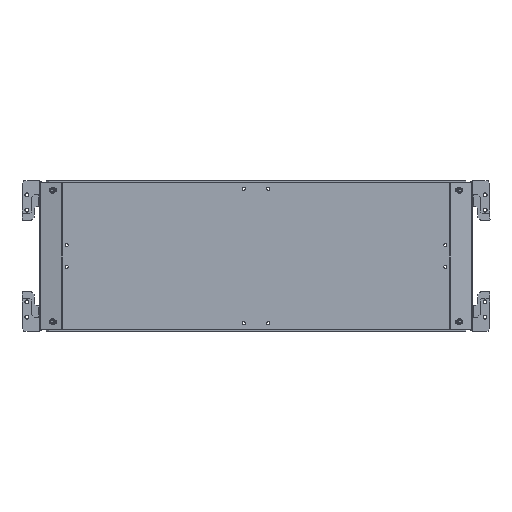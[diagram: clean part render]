
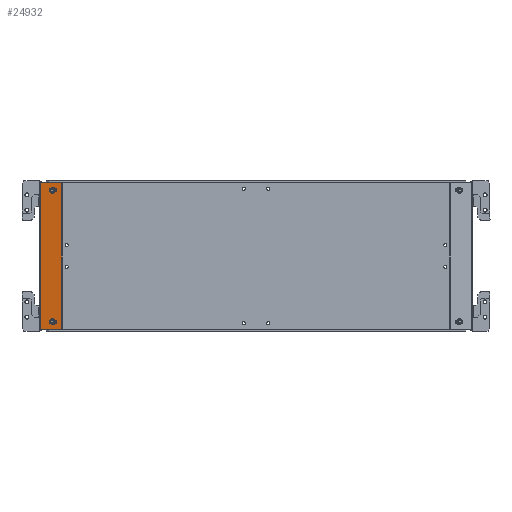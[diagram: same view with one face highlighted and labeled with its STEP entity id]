
A CAD part, left-side view. The second image highlights one B-rep face of the part: STEP entity #24932.
In plain terms, the highlighted planar face has unit normal (-0.985, 0.174, 0).
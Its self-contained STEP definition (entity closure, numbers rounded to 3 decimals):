
#133 = EDGE_CURVE ( 'NONE', #25483, #2798, #22973, .T. ) ;
#482 = ORIENTED_EDGE ( 'NONE', *, *, #19916, .F. ) ;
#875 = CARTESIAN_POINT ( 'NONE',  ( 1099.568, 431.306, -87.754 ) ) ;
#882 = DIRECTION ( 'NONE',  ( -0.15, -0.853, 0.5 ) ) ;
#974 = EDGE_CURVE ( 'NONE', #3538, #25483, #24472, .T. ) ;
#1029 = ORIENTED_EDGE ( 'NONE', *, *, #133, .T. ) ;
#1152 = EDGE_CURVE ( 'NONE', #8448, #6318, #25730, .T. ) ;
#1171 = VECTOR ( 'NONE', #12649, 1000. ) ;
#1431 = EDGE_CURVE ( 'NONE', #16072, #26197, #1823, .T. ) ;
#1483 = VECTOR ( 'NONE', #23919, 1000. ) ;
#1628 = CARTESIAN_POINT ( 'NONE',  ( 1098.778, 426.825, -79.873 ) ) ;
#1823 = LINE ( 'NONE', #24078, #1483 ) ;
#2203 = EDGE_CURVE ( 'NONE', #12276, #9836, #29211, .T. ) ;
#2447 = VECTOR ( 'NONE', #28014, 1000. ) ;
#2693 = DIRECTION ( 'NONE',  ( 0.15, 0.853, -0.5 ) ) ;
#2798 = VERTEX_POINT ( 'NONE', #16400 ) ;
#2863 = VERTEX_POINT ( 'NONE', #5991 ) ;
#3266 = ORIENTED_EDGE ( 'NONE', *, *, #1152, .T. ) ;
#3538 = VERTEX_POINT ( 'NONE', #11581 ) ;
#3877 = CARTESIAN_POINT ( 'NONE',  ( 1100.358, 435.786, -79.873 ) ) ;
#3898 = DIRECTION ( 'NONE',  ( 0.15, 0.853, 0.5 ) ) ;
#3906 = ORIENTED_EDGE ( 'NONE', *, *, #26634, .T. ) ;
#3957 = LINE ( 'NONE', #16151, #18466 ) ;
#4536 = ORIENTED_EDGE ( 'NONE', *, *, #1431, .T. ) ;
#4725 = VECTOR ( 'NONE', #14688, 1000. ) ;
#4895 = VERTEX_POINT ( 'NONE', #12906 ) ;
#5038 = CARTESIAN_POINT ( 'NONE',  ( 1099.568, 431.306, -77.246 ) ) ;
#5292 = EDGE_CURVE ( 'NONE', #2863, #8448, #7684, .T. ) ;
#5568 = DIRECTION ( 'NONE',  ( 0., 0., 1. ) ) ;
#5841 = FACE_BOUND ( 'NONE', #30952, .T. ) ;
#5991 = CARTESIAN_POINT ( 'NONE',  ( 1100.358, 435.786, 129.873 ) ) ;
#6293 = EDGE_CURVE ( 'NONE', #2798, #6918, #17303, .T. ) ;
#6318 = VERTEX_POINT ( 'NONE', #24110 ) ;
#6414 = CARTESIAN_POINT ( 'NONE',  ( 1098.778, 426.825, 25. ) ) ;
#6730 = DIRECTION ( 'NONE',  ( 0., 0., 1. ) ) ;
#6918 = VERTEX_POINT ( 'NONE', #3877 ) ;
#7176 = VECTOR ( 'NONE', #2693, 1000. ) ;
#7216 = DIRECTION ( 'NONE',  ( -0.15, -0.853, -0.5 ) ) ;
#7232 = CARTESIAN_POINT ( 'NONE',  ( 1099.568, 431.306, 127.246 ) ) ;
#7368 = ORIENTED_EDGE ( 'NONE', *, *, #18036, .T. ) ;
#7684 = LINE ( 'NONE', #22781, #18169 ) ;
#7806 = DIRECTION ( 'NONE',  ( -0.174, -0.985, 0. ) ) ;
#7953 = DIRECTION ( 'NONE',  ( -0.985, 0.174, 0. ) ) ;
#8448 = VERTEX_POINT ( 'NONE', #23753 ) ;
#9013 = VECTOR ( 'NONE', #23139, 1000. ) ;
#9229 = DIRECTION ( 'NONE',  ( -0.15, -0.853, -0.5 ) ) ;
#9590 = AXIS2_PLACEMENT_3D ( 'NONE', #25644, #7953, #7806 ) ;
#9836 = VERTEX_POINT ( 'NONE', #1628 ) ;
#10780 = EDGE_CURVE ( 'NONE', #4895, #26197, #25666, .T. ) ;
#10944 = LINE ( 'NONE', #30775, #9013 ) ;
#11581 = CARTESIAN_POINT ( 'NONE',  ( 1098.778, 426.825, -85.127 ) ) ;
#11613 = VERTEX_POINT ( 'NONE', #7232 ) ;
#12276 = VERTEX_POINT ( 'NONE', #5038 ) ;
#12364 = ORIENTED_EDGE ( 'NONE', *, *, #32001, .T. ) ;
#12551 = CARTESIAN_POINT ( 'NONE',  ( 1100.358, 435.786, -79.873 ) ) ;
#12590 = ORIENTED_EDGE ( 'NONE', *, *, #6293, .T. ) ;
#12649 = DIRECTION ( 'NONE',  ( -0.174, -0.985, 0. ) ) ;
#12836 = VECTOR ( 'NONE', #3898, 1000. ) ;
#12906 = CARTESIAN_POINT ( 'NONE',  ( 1097.227, 418.028, -95. ) ) ;
#14400 = EDGE_LOOP ( 'NONE', ( #4536, #20155, #23005, #482 ) ) ;
#14591 = CARTESIAN_POINT ( 'NONE',  ( 1099.568, 431.306, -77.246 ) ) ;
#14688 = DIRECTION ( 'NONE',  ( 0., 0., 1. ) ) ;
#16072 = VERTEX_POINT ( 'NONE', #27703 ) ;
#16151 = CARTESIAN_POINT ( 'NONE',  ( 1097.227, 418.028, 25. ) ) ;
#16163 = LINE ( 'NONE', #6414, #29779 ) ;
#16212 = VECTOR ( 'NONE', #29390, 1000. ) ;
#16400 = CARTESIAN_POINT ( 'NONE',  ( 1100.358, 435.786, -85.127 ) ) ;
#16679 = VERTEX_POINT ( 'NONE', #19974 ) ;
#17124 = EDGE_LOOP ( 'NONE', ( #28257, #27447, #23293, #1029, #12590, #26248 ) ) ;
#17287 = LINE ( 'NONE', #12551, #21127 ) ;
#17303 = LINE ( 'NONE', #29304, #4725 ) ;
#17382 = CARTESIAN_POINT ( 'NONE',  ( 1098.778, 426.825, 25. ) ) ;
#17394 = LINE ( 'NONE', #24994, #1171 ) ;
#17444 = DIRECTION ( 'NONE',  ( -0.15, -0.853, 0.5 ) ) ;
#17734 = FACE_BOUND ( 'NONE', #17124, .T. ) ;
#18036 = EDGE_CURVE ( 'NONE', #16679, #20000, #24671, .T. ) ;
#18169 = VECTOR ( 'NONE', #5568, 1000. ) ;
#18200 = PLANE ( 'NONE',  #9590 ) ;
#18292 = EDGE_CURVE ( 'NONE', #6318, #16679, #19576, .T. ) ;
#18382 = CARTESIAN_POINT ( 'NONE',  ( 1097.227, 418.028, -95. ) ) ;
#18466 = VECTOR ( 'NONE', #6730, 1000. ) ;
#19576 = LINE ( 'NONE', #31480, #29254 ) ;
#19645 = VECTOR ( 'NONE', #882, 1000. ) ;
#19916 = EDGE_CURVE ( 'NONE', #16072, #28600, #17394, .T. ) ;
#19974 = CARTESIAN_POINT ( 'NONE',  ( 1098.778, 426.825, 135.127 ) ) ;
#20000 = VERTEX_POINT ( 'NONE', #25151 ) ;
#20155 = ORIENTED_EDGE ( 'NONE', *, *, #10780, .F. ) ;
#20629 = FACE_OUTER_BOUND ( 'NONE', #14400, .T. ) ;
#21127 = VECTOR ( 'NONE', #17444, 1000. ) ;
#21739 = CARTESIAN_POINT ( 'NONE',  ( 1099.568, 431.306, -87.754 ) ) ;
#21948 = LINE ( 'NONE', #31535, #12836 ) ;
#22781 = CARTESIAN_POINT ( 'NONE',  ( 1100.358, 435.786, 25. ) ) ;
#22917 = DIRECTION ( 'NONE',  ( 0.174, 0.985, 0. ) ) ;
#22939 = CARTESIAN_POINT ( 'NONE',  ( 1097.227, 418.028, 145. ) ) ;
#22973 = LINE ( 'NONE', #875, #2447 ) ;
#23005 = ORIENTED_EDGE ( 'NONE', *, *, #27408, .T. ) ;
#23047 = VECTOR ( 'NONE', #22917, 1000. ) ;
#23139 = DIRECTION ( 'NONE',  ( 0.15, 0.853, -0.5 ) ) ;
#23293 = ORIENTED_EDGE ( 'NONE', *, *, #974, .T. ) ;
#23753 = CARTESIAN_POINT ( 'NONE',  ( 1100.358, 435.786, 135.127 ) ) ;
#23919 = DIRECTION ( 'NONE',  ( 0., 0., -1. ) ) ;
#24078 = CARTESIAN_POINT ( 'NONE',  ( 1103.304, 452.496, 25. ) ) ;
#24110 = CARTESIAN_POINT ( 'NONE',  ( 1099.568, 431.306, 137.754 ) ) ;
#24472 = LINE ( 'NONE', #27235, #7176 ) ;
#24671 = LINE ( 'NONE', #17382, #16212 ) ;
#24932 = ADVANCED_FACE ( 'NONE', ( #5841, #17734, #20629 ), #18200, .T. ) ;
#24994 = CARTESIAN_POINT ( 'NONE',  ( 1102.867, 450.017, 145. ) ) ;
#25151 = CARTESIAN_POINT ( 'NONE',  ( 1098.778, 426.825, 129.873 ) ) ;
#25464 = CARTESIAN_POINT ( 'NONE',  ( 1103.304, 452.496, -95. ) ) ;
#25483 = VERTEX_POINT ( 'NONE', #21739 ) ;
#25573 = CARTESIAN_POINT ( 'NONE',  ( 1100.358, 435.786, 135.127 ) ) ;
#25644 = CARTESIAN_POINT ( 'NONE',  ( 1103.304, 452.496, 25. ) ) ;
#25666 = LINE ( 'NONE', #18382, #23047 ) ;
#25730 = LINE ( 'NONE', #25573, #19645 ) ;
#26197 = VERTEX_POINT ( 'NONE', #25464 ) ;
#26248 = ORIENTED_EDGE ( 'NONE', *, *, #31738, .T. ) ;
#26309 = ORIENTED_EDGE ( 'NONE', *, *, #5292, .T. ) ;
#26634 = EDGE_CURVE ( 'NONE', #20000, #11613, #10944, .T. ) ;
#26687 = EDGE_CURVE ( 'NONE', #9836, #3538, #16163, .T. ) ;
#27235 = CARTESIAN_POINT ( 'NONE',  ( 1098.778, 426.825, -85.127 ) ) ;
#27408 = EDGE_CURVE ( 'NONE', #4895, #28600, #3957, .T. ) ;
#27447 = ORIENTED_EDGE ( 'NONE', *, *, #26687, .T. ) ;
#27703 = CARTESIAN_POINT ( 'NONE',  ( 1103.304, 452.496, 145. ) ) ;
#28014 = DIRECTION ( 'NONE',  ( 0.15, 0.853, 0.5 ) ) ;
#28257 = ORIENTED_EDGE ( 'NONE', *, *, #2203, .T. ) ;
#28600 = VERTEX_POINT ( 'NONE', #22939 ) ;
#29211 = LINE ( 'NONE', #14591, #30564 ) ;
#29254 = VECTOR ( 'NONE', #7216, 1000. ) ;
#29304 = CARTESIAN_POINT ( 'NONE',  ( 1100.358, 435.786, 25. ) ) ;
#29390 = DIRECTION ( 'NONE',  ( 0., 0., -1. ) ) ;
#29779 = VECTOR ( 'NONE', #30933, 1000. ) ;
#30564 = VECTOR ( 'NONE', #9229, 1000. ) ;
#30775 = CARTESIAN_POINT ( 'NONE',  ( 1098.778, 426.825, 129.873 ) ) ;
#30933 = DIRECTION ( 'NONE',  ( 0., 0., -1. ) ) ;
#30952 = EDGE_LOOP ( 'NONE', ( #12364, #26309, #3266, #31703, #7368, #3906 ) ) ;
#31480 = CARTESIAN_POINT ( 'NONE',  ( 1099.568, 431.306, 137.754 ) ) ;
#31535 = CARTESIAN_POINT ( 'NONE',  ( 1099.568, 431.306, 127.246 ) ) ;
#31703 = ORIENTED_EDGE ( 'NONE', *, *, #18292, .T. ) ;
#31738 = EDGE_CURVE ( 'NONE', #6918, #12276, #17287, .T. ) ;
#32001 = EDGE_CURVE ( 'NONE', #11613, #2863, #21948, .T. ) ;
